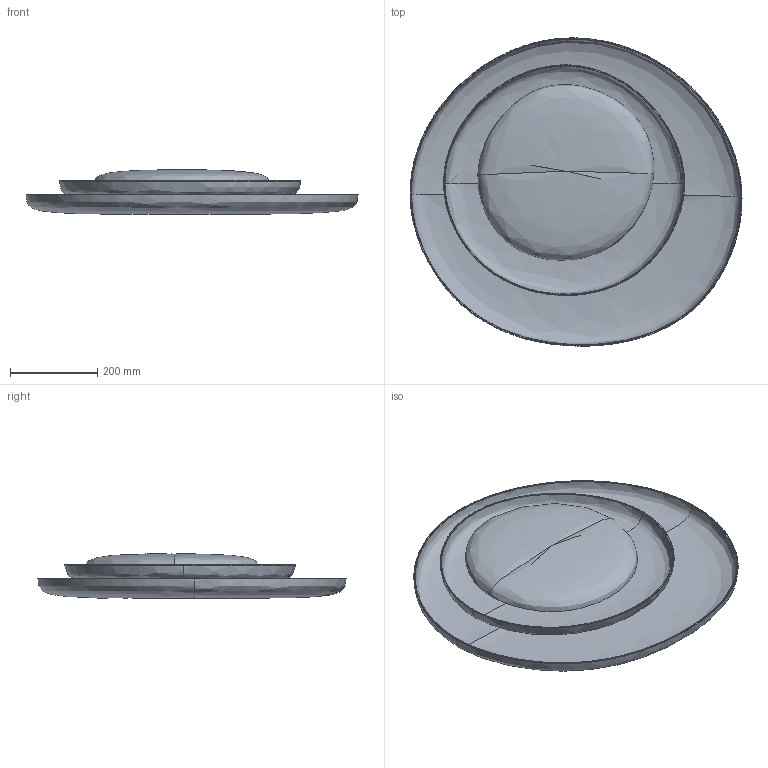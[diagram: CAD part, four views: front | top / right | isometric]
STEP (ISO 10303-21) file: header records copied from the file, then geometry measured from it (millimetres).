
FILE_DESCRIPTION (( 'STEP AP214' ), '1' );
FILE_NAME ('196_STD_W_C_LD_3D.STEP', '2021-04-29T06:44:21', ( '' ), ( '' ), 'SwSTEP 2.0', 'SolidWorks 2021', '' );
FILE_SCHEMA (( 'AUTOMOTIVE_DESIGN' ));
Length unit declared in the file: millimetre
Products named in the file (1): 196_STD_W_C_LD_3D
Bounding box: 759.21 x 704.91 x 101.57 mm (x, y, z)
Volume: 2843585.7 mm3; surface area: 1701790.9 mm2
Topology: 5 solids, 5 shells, 1529 faces, 3758 edges, 2136 vertices
Faces by surface type: bspline 477, plane 315, cone 221, cylinder 212, torus 180, sphere 124
Entity records: 95447 total; most frequent: CARTESIAN_POINT 47147, ORIENTED_EDGE 7150, DIRECTION 5827, EDGE_CURVE 3575, AXIS2_PLACEMENT_3D 2523, VERTEX_POINT 2131, EDGE_LOOP 1654, UNCERTAINTY_MEASURE_WITH_UNIT 1536
